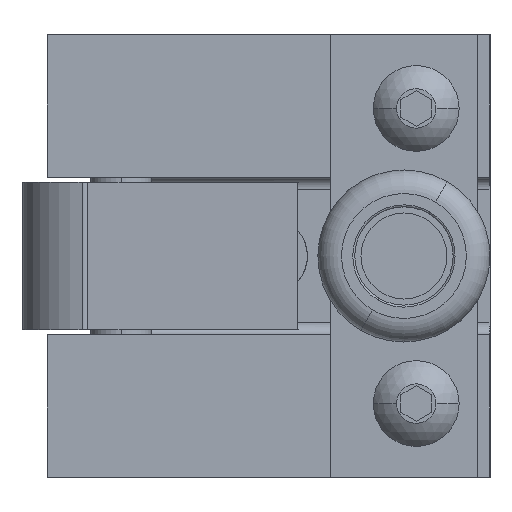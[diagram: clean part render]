
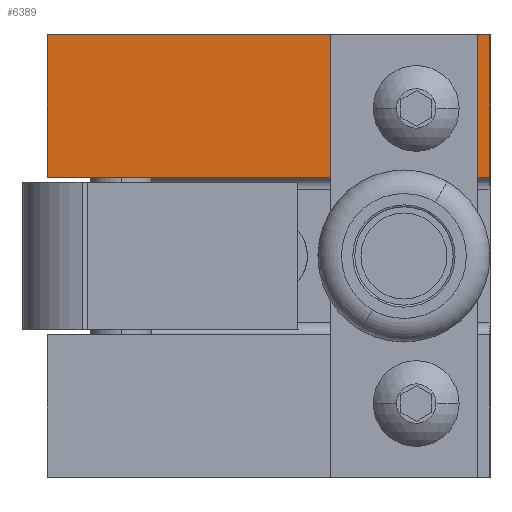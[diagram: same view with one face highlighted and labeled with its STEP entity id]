
A CAD part, left-side view. The second image highlights one B-rep face of the part: STEP entity #6389.
In plain terms, the highlighted planar face has unit normal (-1, 0, 0).
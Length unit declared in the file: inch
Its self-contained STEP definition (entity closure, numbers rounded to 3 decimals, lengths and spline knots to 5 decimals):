
#5081 = CARTESIAN_POINT ( 'NONE',  ( -1.70175, 1.03284, 1.22811 ) ) ;
#5082 = DIRECTION ( 'NONE',  ( 0., 0., 1. ) ) ;
#5083 = VECTOR ( 'NONE', #5082, 39.37008 ) ;
#5084 = CARTESIAN_POINT ( 'NONE',  ( -1.70175, 1.03284, -1.02189 ) ) ;
#5085 = LINE ( 'NONE', #5084, #5083 ) ;
#5086 = CARTESIAN_POINT ( 'NONE',  ( -1.70175, 1.03284, 0.50311 ) ) ;
#5878 = VERTEX_POINT ( 'NONE', #5086 ) ;
#5881 = EDGE_CURVE ( 'NONE', #5878, #5883, #5085, .T. ) ;
#5883 = VERTEX_POINT ( 'NONE', #5081 ) ;
#6279 = ORIENTED_EDGE ( 'NONE', *, *, #5881, .F. ) ;
#6389 = ADVANCED_FACE ( 'NONE', ( #7993, #7992 ), #7679, .T. ) ;
#6391 = EDGE_LOOP ( 'NONE', ( #6392, #6396 ) ) ;
#6392 = ORIENTED_EDGE ( 'NONE', *, *, #6393, .F. ) ;
#6393 = EDGE_CURVE ( 'NONE', #6394, #6395, #7677, .T. ) ;
#6394 = VERTEX_POINT ( 'NONE', #7656 ) ;
#6395 = VERTEX_POINT ( 'NONE', #7654 ) ;
#6396 = ORIENTED_EDGE ( 'NONE', *, *, #6398, .F. ) ;
#6398 = EDGE_CURVE ( 'NONE', #6395, #6394, #7649, .T. ) ;
#6401 = EDGE_LOOP ( 'NONE', ( #6402, #6406, #6614, #6279 ) ) ;
#6402 = ORIENTED_EDGE ( 'NONE', *, *, #6403, .F. ) ;
#6403 = EDGE_CURVE ( 'NONE', #6405, #5878, #7651, .T. ) ;
#6405 = VERTEX_POINT ( 'NONE', #7632 ) ;
#6406 = ORIENTED_EDGE ( 'NONE', *, *, #6407, .T. ) ;
#6407 = EDGE_CURVE ( 'NONE', #6405, #6613, #7618, .T. ) ;
#6613 = VERTEX_POINT ( 'NONE', #8918 ) ;
#6614 = ORIENTED_EDGE ( 'NONE', *, *, #6615, .F. ) ;
#6615 = EDGE_CURVE ( 'NONE', #5883, #6613, #8977, .T. ) ;
#7615 = DIRECTION ( 'NONE',  ( 0., 0., 1. ) ) ;
#7616 = VECTOR ( 'NONE', #7615, 39.37008 ) ;
#7617 = CARTESIAN_POINT ( 'NONE',  ( -1.70175, -1.21716, -1.02189 ) ) ;
#7618 = LINE ( 'NONE', #7617, #7616 ) ;
#7632 = CARTESIAN_POINT ( 'NONE',  ( -1.70175, -1.21716, 0.50311 ) ) ;
#7634 = DIRECTION ( 'NONE',  ( 0., 1., 0. ) ) ;
#7635 = VECTOR ( 'NONE', #7634, 39.37008 ) ;
#7637 = CARTESIAN_POINT ( 'NONE',  ( -1.70175, -1.21716, 0.50311 ) ) ;
#7642 = DIRECTION ( 'NONE',  ( 0., 0., 1. ) ) ;
#7644 = DIRECTION ( 'NONE',  ( -1., 0., 0. ) ) ;
#7646 = CARTESIAN_POINT ( 'NONE',  ( -1.70175, -0.84216, 0.85311 ) ) ;
#7647 = AXIS2_PLACEMENT_3D ( 'NONE', #7646, #7644, #7642 ) ;
#7649 = CIRCLE ( 'NONE', #7647, 0.125 ) ;
#7651 = LINE ( 'NONE', #7637, #7635 ) ;
#7654 = CARTESIAN_POINT ( 'NONE',  ( -1.70175, -0.84216, 0.72811 ) ) ;
#7656 = CARTESIAN_POINT ( 'NONE',  ( -1.70175, -0.84216, 0.97811 ) ) ;
#7659 = DIRECTION ( 'NONE',  ( 0., 0., 1. ) ) ;
#7660 = DIRECTION ( 'NONE',  ( -1., 0., 0. ) ) ;
#7662 = CARTESIAN_POINT ( 'NONE',  ( -1.70175, -0.84216, 0.85311 ) ) ;
#7664 = AXIS2_PLACEMENT_3D ( 'NONE', #7662, #7660, #7659 ) ;
#7670 = DIRECTION ( 'NONE',  ( 0., 0., 1. ) ) ;
#7672 = DIRECTION ( 'NONE',  ( -1., 0., 0. ) ) ;
#7673 = CARTESIAN_POINT ( 'NONE',  ( -1.70175, -1.21716, -1.02189 ) ) ;
#7675 = AXIS2_PLACEMENT_3D ( 'NONE', #7673, #7672, #7670 ) ;
#7677 = CIRCLE ( 'NONE', #7664, 0.125 ) ;
#7679 = PLANE ( 'NONE',  #7675 ) ;
#7992 = FACE_OUTER_BOUND ( 'NONE', #6401, .T. ) ;
#7993 = FACE_BOUND ( 'NONE', #6391, .T. ) ;
#8918 = CARTESIAN_POINT ( 'NONE',  ( -1.70175, -1.21716, 1.22811 ) ) ;
#8974 = DIRECTION ( 'NONE',  ( 0., -1., 0. ) ) ;
#8975 = VECTOR ( 'NONE', #8974, 39.37008 ) ;
#8976 = CARTESIAN_POINT ( 'NONE',  ( -1.70175, -1.21716, 1.22811 ) ) ;
#8977 = LINE ( 'NONE', #8976, #8975 ) ;
